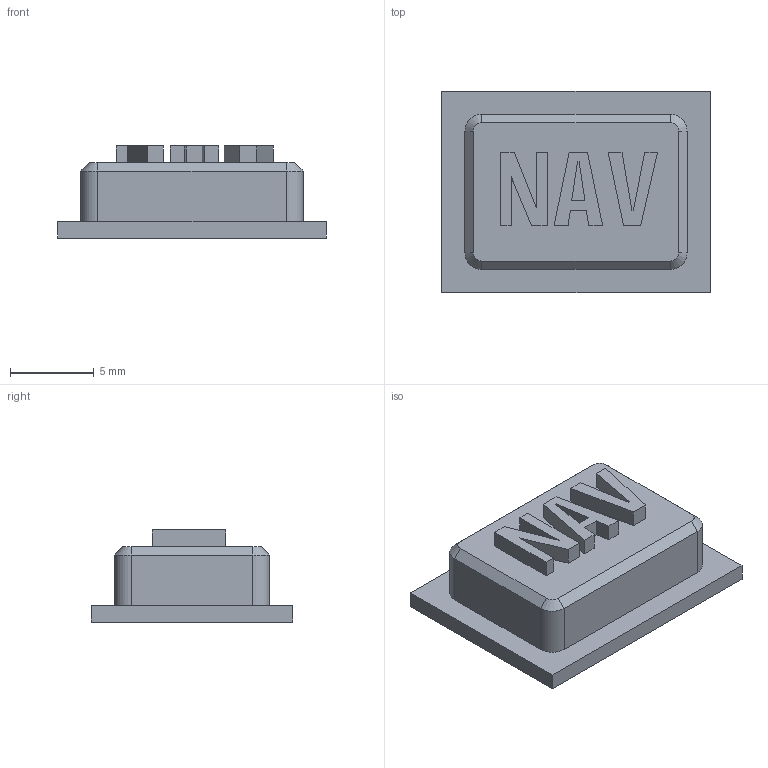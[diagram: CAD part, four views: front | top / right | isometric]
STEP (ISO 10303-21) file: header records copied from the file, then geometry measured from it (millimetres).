
FILE_DESCRIPTION(('FreeCAD Model'),'2;1');
FILE_NAME('E:/CAD Designs/Garmin/Final/CAD files/STEP/NAV.step', '2021-02-27T12:59:34',('Author'),(''), 'Open CASCADE STEP processor 7.3','FreeCAD','Unknown');
FILE_SCHEMA(('AUTOMOTIVE_DESIGN { 1 0 10303 214 1 1 1 1 }'));
Length unit declared in the file: millimetre
Products named in the file (2): Extrude; Body
Bounding box: 16 x 12 x 5.5 mm (x, y, z)
Volume: 633.8 mm3; surface area: 684.3 mm2
Topology: 4 solids, 4 shells, 59 faces, 142 edges, 92 vertices
Faces by surface type: plane 51, cylinder 4, cone 4
Entity records: 3590 total; most frequent: CARTESIAN_POINT 584, DIRECTION 557, LINE 406, VECTOR 406, ORIENTED_EDGE 284, PCURVE 284, DEFINITIONAL_REPRESENTATION 284, EDGE_CURVE 142
